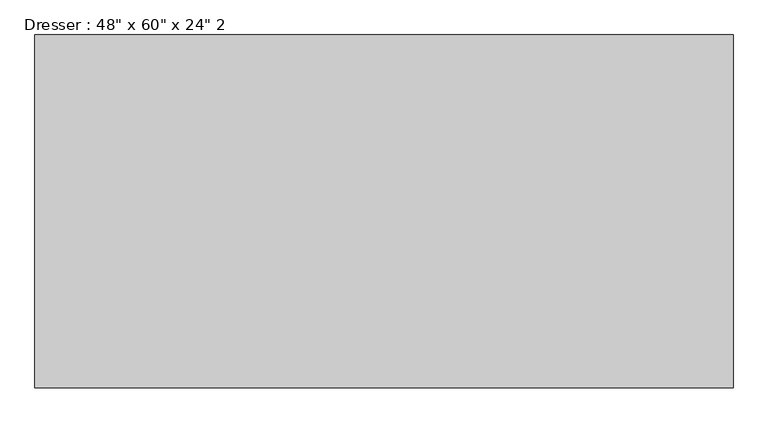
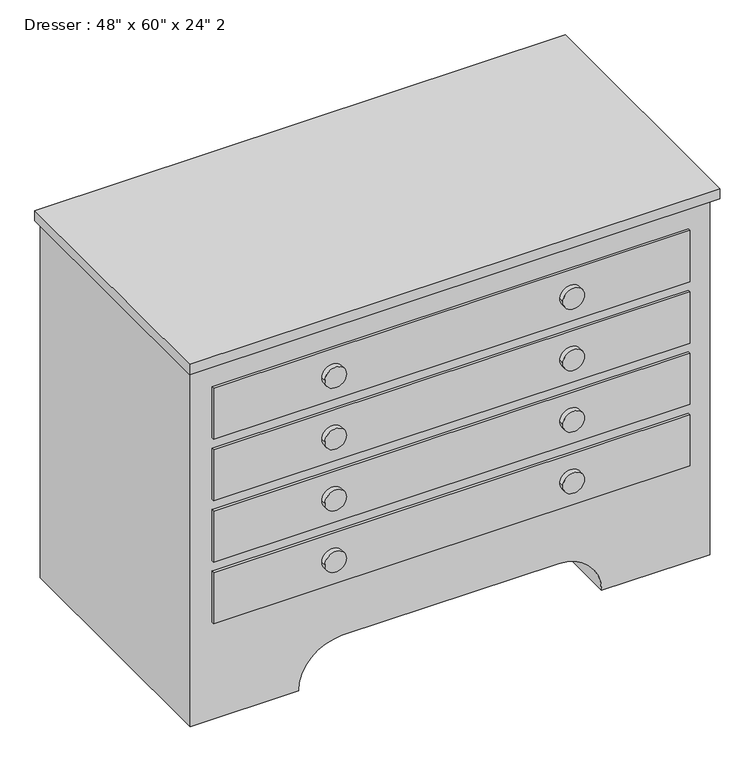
"""IFC4 building model written with IfcOpenShell, lengths in millimetres: furniture geometry."""

from ifc_helpers import new_model, si_unit, point, frame, frame_2d, origin, place, context, project, spatial, polyline, circle_curve, trimmed, segment, composite_curve, outline, extrude, source, transform, mapped, element, save


def furniture_078ba9d8(model_context):
    return source(origin(), model_context, "Body", "SweptSolid", [
        extrude(outline(polyline([(353.1067402, -58.3629541), (353.1067402, -687.0129541), (-891.4932598, -687.0129541), (-891.4932598, -58.3629541), (353.1067402, -58.3629541)])), frame((0.0, 0.0, 889.0), z_axis=(0.0, 0.0, 1.0), x_axis=(1.0, 0.0, 0.0)), (0.0, 0.0, 1.0), 25.4),
        extrude(outline(composite_curve([segment(polyline([(0.0, 340.4067402), (889.0, 340.4067402), (889.0, -878.7932598), (0.0, -878.7932598), (0.0, -624.7932598)]), True, "CONTINUOUS"), segment(trimmed(circle_curve(frame_2d((0.0, -523.1932598)), 101.6), [point((0.0, -624.7932598))], [point((101.6, -523.1932598))], True, "CARTESIAN"), True, "CONTINUOUS"), segment(polyline([(101.6, -523.1932598), (101.6, -15.1932598)]), True, "CONTINUOUS"), segment(trimmed(circle_curve(frame_2d((0.0, -15.1932598)), 101.6), [point((101.6, -15.1932598))], [point((0.0, 86.4067402))], True, "CARTESIAN"), True, "CONTINUOUS"), segment(polyline([(0.0, 86.4067402), (0.0, 340.4067402)]), True, "CONTINUOUS")], self_intersect=False)), frame((0.0, -667.9629541, 0.0), z_axis=(0.0, 1.0, 0.0), x_axis=(0.0, 0.0, 1.0)), (0.0, 0.0, 1.0), 609.6),
        extrude(outline(composite_curve([segment(trimmed(circle_curve(frame_2d((762.0, 10.2067402)), 25.4), [point((762.0, -15.1932598))], [point((762.0, 35.6067402))], False, "CARTESIAN"), True, "CONTINUOUS"), segment(trimmed(circle_curve(frame_2d((762.0, 10.2067402)), 25.4), [point((762.0, 35.6067402))], [point((762.0, -15.1932598))], False, "CARTESIAN"), True, "CONTINUOUS")], self_intersect=False)), frame((0.0, -687.0129541, 0.0), z_axis=(0.0, 1.0, 0.0), x_axis=(0.0, 0.0, 1.0)), (0.0, 0.0, 1.0), 12.7),
        extrude(outline(composite_curve([segment(trimmed(circle_curve(frame_2d((609.6, 10.2067402)), 25.4), [point((609.6, -15.1932598))], [point((609.6, 35.6067402))], False, "CARTESIAN"), True, "CONTINUOUS"), segment(trimmed(circle_curve(frame_2d((609.6, 10.2067402)), 25.4), [point((609.6, 35.6067402))], [point((609.6, -15.1932598))], False, "CARTESIAN"), True, "CONTINUOUS")], self_intersect=False)), frame((0.0, -687.0129541, 0.0), z_axis=(0.0, 1.0, 0.0), x_axis=(0.0, 0.0, 1.0)), (0.0, 0.0, 1.0), 12.7),
        extrude(outline(composite_curve([segment(trimmed(circle_curve(frame_2d((457.2, 10.2067402)), 25.4), [point((457.2, -15.1932598))], [point((457.2, 35.6067402))], False, "CARTESIAN"), True, "CONTINUOUS"), segment(trimmed(circle_curve(frame_2d((457.2, 10.2067402)), 25.4), [point((457.2, 35.6067402))], [point((457.2, -15.1932598))], False, "CARTESIAN"), True, "CONTINUOUS")], self_intersect=False)), frame((0.0, -687.0129541, 0.0), z_axis=(0.0, 1.0, 0.0), x_axis=(0.0, 0.0, 1.0)), (0.0, 0.0, 1.0), 12.7),
        extrude(outline(composite_curve([segment(trimmed(circle_curve(frame_2d((304.8, 10.2067402)), 25.4), [point((304.8, -15.1932598))], [point((304.8, 35.6067402))], False, "CARTESIAN"), True, "CONTINUOUS"), segment(trimmed(circle_curve(frame_2d((304.8, 10.2067402)), 25.4), [point((304.8, 35.6067402))], [point((304.8, -15.1932598))], False, "CARTESIAN"), True, "CONTINUOUS")], self_intersect=False)), frame((0.0, -687.0129541, 0.0), z_axis=(0.0, 1.0, 0.0), x_axis=(0.0, 0.0, 1.0)), (0.0, 0.0, 1.0), 12.7),
        extrude(outline(composite_curve([segment(trimmed(circle_curve(frame_2d((304.8, -548.5932598)), 25.4), [point((304.8, -573.9932598))], [point((304.8, -523.1932598))], False, "CARTESIAN"), True, "CONTINUOUS"), segment(trimmed(circle_curve(frame_2d((304.8, -548.5932598)), 25.4), [point((304.8, -523.1932598))], [point((304.8, -573.9932598))], False, "CARTESIAN"), True, "CONTINUOUS")], self_intersect=False)), frame((0.0, -687.0129541, 0.0), z_axis=(0.0, 1.0, 0.0), x_axis=(0.0, 0.0, 1.0)), (0.0, 0.0, 1.0), 12.7),
        extrude(outline(composite_curve([segment(trimmed(circle_curve(frame_2d((457.2, -548.5932598)), 25.4), [point((457.2, -573.9932598))], [point((457.2, -523.1932598))], False, "CARTESIAN"), True, "CONTINUOUS"), segment(trimmed(circle_curve(frame_2d((457.2, -548.5932598)), 25.4), [point((457.2, -523.1932598))], [point((457.2, -573.9932598))], False, "CARTESIAN"), True, "CONTINUOUS")], self_intersect=False)), frame((0.0, -687.0129541, 0.0), z_axis=(0.0, 1.0, 0.0), x_axis=(0.0, 0.0, 1.0)), (0.0, 0.0, 1.0), 12.7),
        extrude(outline(composite_curve([segment(trimmed(circle_curve(frame_2d((609.6, -548.5932598)), 25.4), [point((609.6, -573.9932598))], [point((609.6, -523.1932598))], False, "CARTESIAN"), True, "CONTINUOUS"), segment(trimmed(circle_curve(frame_2d((609.6, -548.5932598)), 25.4), [point((609.6, -523.1932598))], [point((609.6, -573.9932598))], False, "CARTESIAN"), True, "CONTINUOUS")], self_intersect=False)), frame((0.0, -687.0129541, 0.0), z_axis=(0.0, 1.0, 0.0), x_axis=(0.0, 0.0, 1.0)), (0.0, 0.0, 1.0), 12.7),
        extrude(outline(composite_curve([segment(trimmed(circle_curve(frame_2d((762.0, -548.5932598)), 25.4), [point((762.0, -573.9932598))], [point((762.0, -523.1932598))], False, "CARTESIAN"), True, "CONTINUOUS"), segment(trimmed(circle_curve(frame_2d((762.0, -548.5932598)), 25.4), [point((762.0, -523.1932598))], [point((762.0, -573.9932598))], False, "CARTESIAN"), True, "CONTINUOUS")], self_intersect=False)), frame((0.0, -687.0129541, 0.0), z_axis=(0.0, 1.0, 0.0), x_axis=(0.0, 0.0, 1.0)), (0.0, 0.0, 1.0), 12.7),
        extrude(outline(polyline([(289.6067402, -674.3129541), (-827.9932598, -674.3129541), (-827.9932598, -667.9629541), (289.6067402, -667.9629541), (289.6067402, -674.3129541)])), frame((0.0, 0.0, 698.5), z_axis=(0.0, 0.0, 1.0), x_axis=(1.0, 0.0, 0.0)), (0.0, 0.0, 1.0), 127.0),
        extrude(outline(polyline([(289.6067402, -674.3129541), (-827.9932598, -674.3129541), (-827.9932598, -667.9629541), (289.6067402, -667.9629541), (289.6067402, -674.3129541)])), frame((0.0, 0.0, 546.1), z_axis=(0.0, 0.0, 1.0), x_axis=(1.0, 0.0, 0.0)), (0.0, 0.0, 1.0), 127.0),
        extrude(outline(polyline([(289.6067402, -674.3129541), (-827.9932598, -674.3129541), (-827.9932598, -667.9629541), (289.6067402, -667.9629541), (289.6067402, -674.3129541)])), frame((0.0, 0.0, 393.7), z_axis=(0.0, 0.0, 1.0), x_axis=(1.0, 0.0, 0.0)), (0.0, 0.0, 1.0), 127.0),
        extrude(outline(polyline([(289.6067402, -674.3129541), (-827.9932598, -674.3129541), (-827.9932598, -667.9629541), (289.6067402, -667.9629541), (289.6067402, -674.3129541)])), frame((0.0, 0.0, 241.3), z_axis=(0.0, 0.0, 1.0), x_axis=(1.0, 0.0, 0.0)), (0.0, 0.0, 1.0), 127.0),
    ])


if __name__ == "__main__":
    model = new_model("IFC4")
    model_context = context("Model", 3, world=origin())
    ifc_project = project(units=[si_unit("LENGTHUNIT", "METRE", prefix="MILLI")], contexts=[model_context])
    site = spatial("IfcSite", under=ifc_project)
    building = spatial("IfcBuilding", under=site)
    placement = place(None, origin())
    furniture_shape = furniture_078ba9d8(model_context)
    element("IfcFurniture", 1, ObjectType="Dresser : 48\" x 60\" x 24\" 2", at=placement, inside=building, context=model_context, shape_type="MappedRepresentation", body=[
        mapped(furniture_shape, transform((0.0, 0.0, 0.0), x_axis=(1.0, 0.0, 0.0), y_axis=(0.0, 1.0, 0.0), z_axis=(0.0, 0.0, 1.0))),
    ])
    save(model, "model.ifc")
